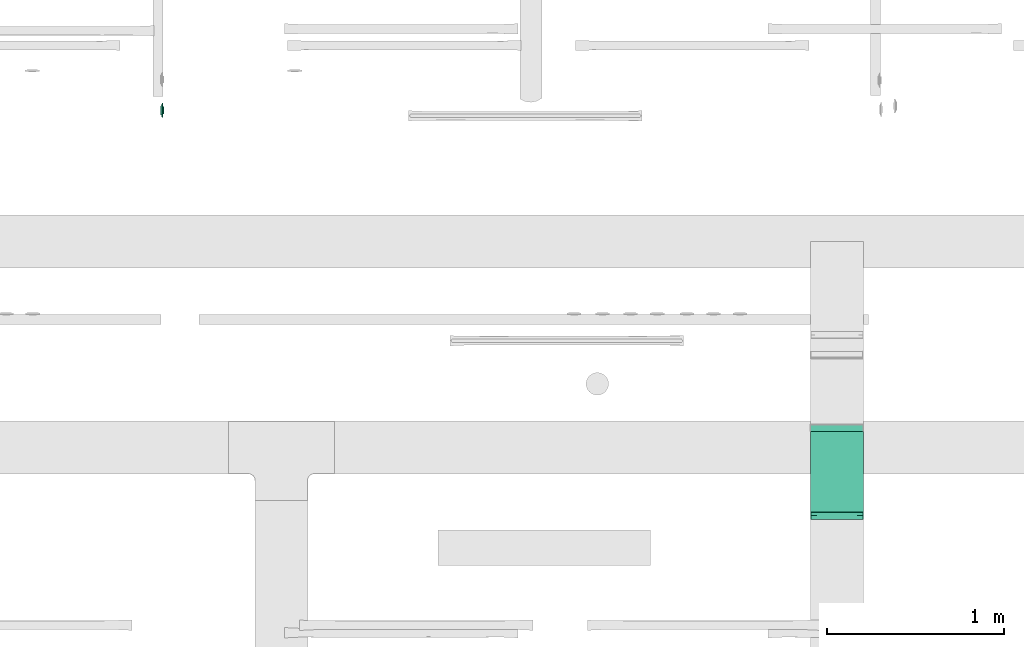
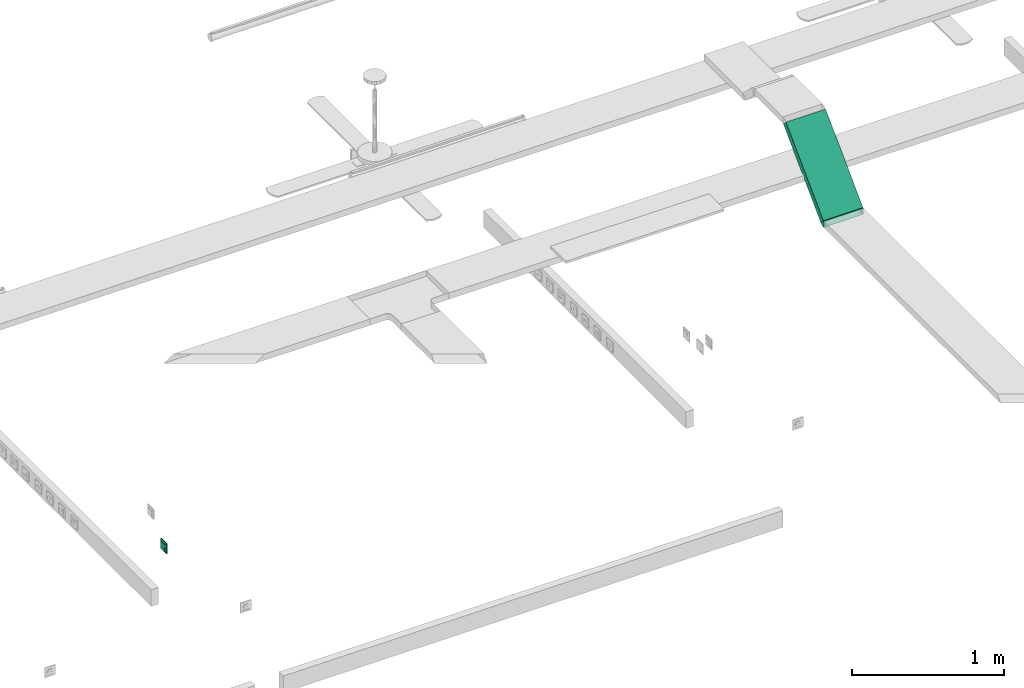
# One storey, part 93 of 153: 1 flow fitting, 1 flow segment, 1 flow terminal.
"""IFC2X3 building model written with IfcOpenShell, lengths in metres."""

from ifc_helpers import new_model, entity, si_unit, converted_unit, derived_unit, direction, frame, frame_2d, origin, place, context, subcontext, project, spatial, rectangle, extrude, faceted_brep, source, transform, mapped, type_object, type_shapes, element, save


model = new_model("IFC2X3")

# Units and contexts
model_context = context("Model", 3, precision=1e-05, world=origin(), true_north=direction((6.12303176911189e-17, 1.0)))
body_context = subcontext(model_context, "Body", "Model", "MODEL_VIEW")
ifc_project = project(units=[si_unit("LENGTHUNIT", "METRE"), si_unit("AREAUNIT", "SQUARE_METRE"), si_unit("VOLUMEUNIT", "CUBIC_METRE"), converted_unit("PLANEANGLEUNIT", "DEGREE", entity("IfcRatioMeasure", 0.0174532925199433), si_unit("PLANEANGLEUNIT", "RADIAN"), dimensions=[0, 0, 0, 0, 0, 0, 0]), si_unit("MASSUNIT", "GRAM", prefix="KILO"), derived_unit("MASSDENSITYUNIT", [(si_unit("MASSUNIT", "GRAM", prefix="KILO"), 1), (si_unit("LENGTHUNIT", "METRE"), -3)]), si_unit("TIMEUNIT", "SECOND"), si_unit("FREQUENCYUNIT", "HERTZ"), si_unit("THERMODYNAMICTEMPERATUREUNIT", "DEGREE_CELSIUS"), derived_unit("THERMALTRANSMITTANCEUNIT", [(si_unit("MASSUNIT", "GRAM", prefix="KILO"), 1), (si_unit("THERMODYNAMICTEMPERATUREUNIT", "KELVIN"), -1), (si_unit("TIMEUNIT", "SECOND"), -3)]), derived_unit("VOLUMETRICFLOWRATEUNIT", [(si_unit("LENGTHUNIT", "METRE"), 3), (si_unit("TIMEUNIT", "SECOND"), -1)]), si_unit("ELECTRICCURRENTUNIT", "AMPERE"), si_unit("ELECTRICVOLTAGEUNIT", "VOLT"), si_unit("POWERUNIT", "WATT"), si_unit("FORCEUNIT", "NEWTON"), si_unit("ILLUMINANCEUNIT", "LUX"), si_unit("LUMINOUSFLUXUNIT", "LUMEN"), si_unit("LUMINOUSINTENSITYUNIT", "CANDELA"), derived_unit("USERDEFINED", [(si_unit("MASSUNIT", "GRAM", prefix="KILO"), -1), (si_unit("LENGTHUNIT", "METRE"), -2), (si_unit("TIMEUNIT", "SECOND"), 3), (si_unit("LUMINOUSFLUXUNIT", "LUMEN"), 1)]), derived_unit("LINEARVELOCITYUNIT", [(si_unit("LENGTHUNIT", "METRE"), 1), (si_unit("TIMEUNIT", "SECOND"), -1)]), si_unit("PRESSUREUNIT", "PASCAL"), derived_unit("USERDEFINED", [(si_unit("LENGTHUNIT", "METRE"), -2), (si_unit("MASSUNIT", "GRAM", prefix="KILO"), 1), (si_unit("TIMEUNIT", "SECOND"), -2)])], contexts=[model_context])

# Site, building, storey
site_placement = place(None, origin())
site = spatial("IfcSite", under=ifc_project, at=site_placement, Name="Default", CompositionType="ELEMENT")
building_placement = place(site_placement, origin())
building = spatial("IfcBuilding", under=site, at=building_placement, CompositionType="ELEMENT")
storey_placement = place(building_placement, frame((0.0, 0.0, -4.62)))
storey = spatial("IfcBuildingStorey", under=building, at=storey_placement, Name="S02", CompositionType="ELEMENT", Elevation=-4.62)

# Flow segment
cable_carrier_segment_type = type_object("IfcCableCarrierSegmentType", Name="Cable Tray with Fittings:Chemins de câbles en treillis_Chemins de câbles en treillis", PredefinedType="NOTDEFINED")
flow_segment_placement = place(building_placement, frame((0.0, 0.0, -4.62)))
element("IfcFlowSegment", 1, at=flow_segment_placement, inside=storey, type_object=cable_carrier_segment_type, Name="Cable Tray with Fittings:Chemins de câbles en treillis_Chemins de câbles en treillis", ObjectType="Cable Tray with Fittings:Chemins de câbles en treillis_Chemins de câbles en treillis", context=body_context, shape_type="SweptSolid", body=[
    extrude(rectangle(XDim=0.0500000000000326, YDim=0.300000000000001, at=frame_2d((0.0, 0.0), x_axis=(0.0, 1.0))), frame((57.2004483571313, -190.248962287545, 3.5845171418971), z_axis=(0.0, 0.707106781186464, 0.707106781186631), x_axis=(-1.0, 0.0, 0.0)), (0.0, 0.0, 1.0), 0.695139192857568),
])

# Flow terminal
light_fixture_type = type_object("IfcLightFixtureType", Name="VV IP21", PredefinedType="NOTDEFINED")
shared_shape_1 = source(origin(), body_context, "Body", "Brep", [
    faceted_brep([(0.0, 0.0209999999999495, -0.00460000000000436), (0.00543519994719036, 0.02028444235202, -0.00460000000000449), (0.0105000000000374, 0.0181865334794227, -0.00460000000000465), (0.0148492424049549, 0.014849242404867, -0.00460000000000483), (0.0181865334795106, 0.0104999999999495, -0.00460000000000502), (0.0202844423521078, 0.00543519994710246, -0.00460000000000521), (0.0210000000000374, 0.0, -0.00460000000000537), (0.0202844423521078, -0.00543519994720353, -0.00460000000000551), (0.0181865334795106, -0.0105000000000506, -0.0046000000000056), (0.0148492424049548, -0.0148492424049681, -0.00460000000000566), (0.0105000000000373, -0.0181865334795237, -0.00460000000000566), (0.00543519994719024, -0.0202844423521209, -0.00460000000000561), (0.0, -0.0210000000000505, -0.00460000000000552), (-0.00543519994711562, -0.0202844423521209, -0.00460000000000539), (-0.0104999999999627, -0.0181865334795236, -0.00460000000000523), (-0.0148492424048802, -0.0148492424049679, -0.00460000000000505), (-0.0181865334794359, -0.0105000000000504, -0.00460000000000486), (-0.0202844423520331, -0.00543519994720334, -0.00460000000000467), (-0.0209999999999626, 0.0, -0.00460000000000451), (-0.020284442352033, 0.00543519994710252, -0.00460000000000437), (-0.0181865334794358, 0.0104999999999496, -0.00460000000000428), (-0.0148492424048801, 0.0148492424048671, -0.00460000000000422), (-0.0104999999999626, 0.0181865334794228, -0.00460000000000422), (-0.00543519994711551, 0.02028444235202, -0.00460000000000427), (-0.020284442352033, -0.00543519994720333, 0.0), (-0.0209999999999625, 0.0, 0.0), (-0.0181865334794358, -0.0105000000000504, 0.0), (-0.0104999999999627, -0.0181865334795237, 0.0), (-0.0148492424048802, -0.0148492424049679, 0.0), (-0.00543519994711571, -0.020284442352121, 0.0), (0.0, -0.0210000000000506, 0.0), (0.00543519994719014, -0.0202844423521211, 0.0), (0.0105000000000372, -0.018186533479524, 0.0), (0.0181865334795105, -0.0105000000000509, 0.0), (0.0148492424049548, -0.0148492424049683, 0.0), (0.0202844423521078, -0.00543519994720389, 0.0), (0.0210000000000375, 0.0, 0.0), (0.0202844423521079, 0.00543519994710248, 0.0), (0.0181865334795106, 0.0104999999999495, 0.0), (0.0105000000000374, 0.0181865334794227, 0.0), (0.0148492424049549, 0.014849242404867, 0.0), (0.00543519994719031, 0.0202844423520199, 0.0), (0.0, 0.0209999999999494, 0.0), (-0.00543519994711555, 0.0202844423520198, 0.0), (-0.0104999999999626, 0.0181865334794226, 0.0), (-0.0181865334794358, 0.0104999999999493, 0.0), (-0.0148492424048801, 0.0148492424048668, 0.0), (-0.020284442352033, 0.00543519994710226, 0.0)], [[[0, 1, 2, 3, 4, 5, 6, 7, 8, 9, 10, 11, 12, 13, 14, 15, 16, 17, 18, 19, 20, 21, 22, 23]], [[17, 24, 25, 18]], [[16, 26, 24, 17]], [[27, 28, 15, 14]], [[16, 15, 28, 26]], [[29, 27, 14, 13]], [[30, 29, 13, 12]], [[11, 31, 30, 12]], [[10, 32, 31, 11]], [[33, 34, 9, 8]], [[10, 9, 34, 32]], [[35, 33, 8, 7]], [[36, 35, 7, 6]], [[5, 37, 36, 6]], [[4, 38, 37, 5]], [[39, 40, 3, 2]], [[4, 3, 40, 38]], [[41, 39, 2, 1]], [[42, 41, 1, 0]], [[23, 43, 42, 0]], [[22, 44, 43, 23]], [[45, 46, 21, 20]], [[22, 21, 46, 44]], [[47, 45, 20, 19]], [[25, 47, 19, 18]], [[25, 24, 26, 28, 27, 29, 30, 31, 32, 34, 33, 35, 36, 37, 38, 40, 39, 41, 42, 43, 44, 46, 45, 47]]]),
    faceted_brep([(0.0270000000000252, 0.026999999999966, 0.0103999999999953), (-0.0269999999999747, 0.026999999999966, 0.0103999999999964), (-0.0269999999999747, -0.0270000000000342, 0.0103999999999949), (0.0270000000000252, -0.0270000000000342, 0.0103999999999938), (-0.0254999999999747, 0.0258096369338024, 0.0103999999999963), (0.0255000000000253, 0.0258096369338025, 0.0103999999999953), (0.0255000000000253, -0.0255000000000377, 0.0103999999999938), (-0.0254999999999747, -0.0255000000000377, 0.0103999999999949), (0.0270000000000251, 0.0269999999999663, 0.00199999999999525), (0.0270000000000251, -0.0270000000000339, 0.00199999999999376), (-0.0269999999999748, -0.0270000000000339, 0.00199999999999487), (-0.0269999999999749, 0.0269999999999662, 0.00199999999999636), (0.0255000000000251, 0.0258096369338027, 0.00199999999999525), (-0.0254999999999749, 0.0258096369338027, 0.0019999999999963), (-0.0254999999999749, -0.0255000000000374, 0.00199999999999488), (0.0255000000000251, -0.0255000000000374, 0.00199999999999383)], [[[0, 1, 2, 3], [4, 5, 6, 7]], [[8, 9, 10, 11], [12, 13, 14, 15]], [[1, 0, 8, 11]], [[2, 1, 11, 10]], [[3, 2, 10, 9]], [[0, 3, 9, 8]], [[12, 5, 4, 13]], [[13, 4, 7, 14]], [[14, 7, 6, 15]], [[5, 12, 15, 6]]]),
    faceted_brep([(0.0250000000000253, 0.0253096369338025, 0.00659999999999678), (0.0250000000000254, 0.0253096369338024, 0.0117095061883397), (0.0250000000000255, -0.0245000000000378, 0.0142232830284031), (0.0250000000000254, -0.0250000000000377, 0.0117095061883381), (0.0250000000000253, -0.0250000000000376, 0.00659999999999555), (-0.0249999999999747, 0.0253096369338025, 0.00659999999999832), (-0.0249999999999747, -0.0250000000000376, 0.00659999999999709), (-0.0249999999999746, -0.0250000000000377, 0.0117095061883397), (-0.0249999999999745, -0.0245000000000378, 0.0142232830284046), (-0.0249999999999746, 0.0253096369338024, 0.0117095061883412)], [[[0, 1, 2, 3, 4]], [[5, 6, 7, 8, 9]], [[1, 0, 5, 9]], [[2, 1, 9, 8]], [[3, 2, 8, 7]], [[4, 3, 7, 6]], [[0, 4, 6, 5]]]),
    faceted_brep([(0.027000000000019, 0.0269999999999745, 0.00659999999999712), (-0.0269999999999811, 0.0269999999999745, 0.00659999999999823), (-0.026999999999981, -0.0270000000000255, 0.00659999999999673), (0.027000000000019, -0.0270000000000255, 0.00659999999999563), (0.040350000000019, 0.0403499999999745, 0.00659999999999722), (0.040350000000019, -0.0403500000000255, 0.00659999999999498), (-0.0403499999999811, -0.0403500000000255, 0.00659999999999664), (-0.0403499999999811, 0.0403499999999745, 0.00659999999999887), (-0.026999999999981, 0.0269999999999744, 0.0103999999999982), (0.027000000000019, 0.0269999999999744, 0.0103999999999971), (-0.026999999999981, -0.0270000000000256, 0.0103999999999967), (0.027000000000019, -0.0270000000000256, 0.0103999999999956)], [[[0, 1, 2, 3], [4, 5, 6, 7]], [[4, 7, 8, 9]], [[7, 6, 10, 8]], [[6, 5, 11, 10]], [[5, 4, 9, 11]], [[0, 9, 8, 1]], [[1, 8, 10, 2]], [[2, 10, 11, 3]], [[9, 0, 3, 11]]], outer=[[False, True], [True], [True], [True], [True], [True], [True], [True], [True]]),
    faceted_brep([(0.040350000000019, 0.0403499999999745, 0.00659999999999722), (-0.0403499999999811, 0.0403499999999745, 0.00659999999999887), (-0.0403499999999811, -0.0403500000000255, 0.00659999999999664), (0.040350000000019, -0.0403500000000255, 0.00659999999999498), (-0.0269999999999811, 0.0269999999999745, 0.00659999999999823), (0.0270000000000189, 0.0269999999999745, 0.00659999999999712), (0.0270000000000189, -0.0270000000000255, 0.00659999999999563), (-0.0269999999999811, -0.0270000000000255, 0.00659999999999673), (0.0403500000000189, 0.0403499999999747, 0.0), (0.0403500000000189, -0.0403500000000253, 0.0), (-0.0403499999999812, -0.0403500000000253, 0.0), (-0.0403499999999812, 0.0403499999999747, 0.0), (0.0270000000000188, 0.0269999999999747, 0.0), (-0.0269999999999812, 0.0269999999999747, 0.0), (-0.0269999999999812, -0.0270000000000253, 0.0), (0.0270000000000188, -0.0270000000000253, 0.0)], [[[0, 1, 2, 3], [4, 5, 6, 7]], [[8, 9, 10, 11], [12, 13, 14, 15]], [[1, 0, 8, 11]], [[2, 1, 11, 10]], [[3, 2, 10, 9]], [[0, 3, 9, 8]], [[12, 5, 4, 13]], [[13, 4, 7, 14]], [[14, 7, 6, 15]], [[5, 12, 15, 6]]]),
])
type_shapes(light_fixture_type, [shared_shape_1])
flow_terminal_placement = place(building_placement, frame((53.3897436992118, -187.959254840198, -3.73999999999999), z_axis=(-1.0, 0.0, 0.0), x_axis=(0.0, -1.0, 0.0)))
element("IfcFlowTerminal", 2, at=flow_terminal_placement, inside=storey, type_object=light_fixture_type, Name="INT_Inter VV:VV IP21", ObjectType="INT_Inter VV:VV IP21", context=body_context, shape_type="MappedRepresentation", body=[
    mapped(shared_shape_1, transform((0.0, 0.0, 0.0), scale=1.0)),
])

# Flow fitting
cable_carrier_fitting_type = type_object("IfcCableCarrierFittingType", Name="E_Bend_Vertical_Inside_CA_Generic_MEPcontent", PredefinedType="NOTDEFINED")
shared_shape_2 = source(origin(), body_context, "Body", "Brep", [
    faceted_brep([(-0.00886744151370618, 0.0264878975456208, 0.14746000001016), (-0.00886744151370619, 0.0264878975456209, 0.15), (0.0264878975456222, -0.00886744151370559, 0.15), (0.0264878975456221, -0.0088674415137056, 0.0), (0.0264878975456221, -0.00886744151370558, -0.15), (-0.00886744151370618, 0.0264878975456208, -0.15), (-0.00886744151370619, 0.0264878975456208, -0.14746000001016), (0.0246918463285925, -0.00707139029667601, -0.14746000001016), (0.0246918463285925, -0.00707139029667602, 0.0), (0.0246918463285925, -0.007071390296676, 0.14746000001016), (-0.0124595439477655, 0.025, -0.14746000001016), (-0.0124595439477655, 0.025, -0.15), (-0.0124595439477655, -0.025, -0.15), (-0.0124595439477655, -0.025, 0.0), (-0.0124595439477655, -0.025, 0.15), (-0.0124595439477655, 0.025, 0.15), (-0.0124595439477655, 0.025, 0.14746000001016), (-0.0124595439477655, -0.02246000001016, 0.14746000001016), (-0.0124595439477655, -0.02246000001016, 0.0), (-0.0124595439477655, -0.02246000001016, -0.14746000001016), (-0.00192044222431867, -0.0229036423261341, 0.15), (0.00861865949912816, -0.0208072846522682, 0.15), (0.0175532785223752, -0.0148373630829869, 0.15), (-0.0105155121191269, 0.0253866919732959, 0.15), (-0.0105155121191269, 0.0253866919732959, 0.14746000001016), (0.0161692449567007, -0.0127660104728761, 0.14746000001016), (0.00764664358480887, -0.0184606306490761, 0.14746000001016), (-0.00240645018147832, -0.0204603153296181, 0.14746000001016), (-0.00240645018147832, -0.0204603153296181, -0.14746000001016), (0.00764664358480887, -0.0184606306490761, -0.14746000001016), (0.0161692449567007, -0.0127660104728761, -0.14746000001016), (-0.0105155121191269, 0.0253866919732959, -0.14746000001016), (-0.0105155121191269, 0.0253866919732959, -0.15), (0.0175532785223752, -0.0148373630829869, -0.15), (0.00861865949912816, -0.0208072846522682, -0.15), (-0.00192044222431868, -0.0229036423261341, -0.15), (0.00352933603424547, -0.0226282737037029, 0.0), (0.0151733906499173, -0.0175669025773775, 0.0), (0.00279201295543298, -0.0201976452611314, 0.0), (0.0144110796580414, -0.0150688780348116, 0.0)], [[[0, 1, 2, 3, 4, 5, 6, 7, 8, 9]], [[10, 11, 12, 13, 14, 15, 16, 17, 18, 19]], [[15, 14, 20, 21, 22, 2, 1, 23]], [[24, 0, 9, 25, 26, 27, 17, 16]], [[10, 19, 28, 29, 30, 7, 6, 31]], [[32, 5, 4, 33, 34, 35, 12, 11]], [[35, 36, 13]], [[33, 3, 37]], [[34, 36, 35]], [[34, 37, 36]], [[37, 3, 22]], [[3, 33, 4]], [[2, 22, 3]], [[21, 20, 36]], [[37, 21, 36]], [[37, 34, 33]], [[20, 13, 36]], [[13, 20, 14]], [[12, 35, 13]], [[22, 21, 37]], [[31, 32, 11, 10]], [[15, 23, 24, 16]], [[6, 5, 32, 31]], [[1, 0, 24, 23]], [[18, 38, 28]], [[39, 8, 30]], [[28, 38, 29]], [[38, 39, 29]], [[25, 8, 39]], [[7, 30, 8]], [[8, 25, 9]], [[38, 27, 26]], [[38, 26, 39]], [[30, 29, 39]], [[38, 18, 27]], [[17, 27, 18]], [[18, 28, 19]], [[39, 26, 25]]]),
    faceted_brep([(-0.00886744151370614, 0.0264878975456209, 0.15), (-0.00886744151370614, 0.0264878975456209, 0.14746000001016), (0.0246918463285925, -0.00707139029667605, 0.14746000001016), (0.0246918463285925, -0.00707139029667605, -0.14746000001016), (-0.00886744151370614, 0.0264878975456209, -0.14746000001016), (-0.00886744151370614, 0.0264878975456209, -0.15), (0.0264878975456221, -0.00886744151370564, -0.15), (0.0264878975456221, -0.00886744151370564, 0.15), (-0.00816033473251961, 0.0271950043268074, 0.15), (0.0271950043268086, -0.00816033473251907, 0.15), (0.0271950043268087, -0.00816033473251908, -0.15), (-0.00816033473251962, 0.0271950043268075, -0.15), (-0.00816033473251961, 0.0271950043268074, -0.14746000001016), (0.025398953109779, -0.00636428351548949, -0.14746000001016), (0.025398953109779, -0.00636428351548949, 0.14746000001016), (-0.00816033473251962, 0.0271950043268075, 0.14746000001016)], [[[0, 1, 2, 3, 4, 5, 6, 7]], [[8, 9, 10, 11, 12, 13, 14, 15]], [[6, 5, 11, 10]], [[4, 3, 13, 12]], [[2, 1, 15, 14]], [[0, 7, 9, 8]], [[1, 0, 8, 15]], [[3, 2, 14, 13]], [[5, 4, 12, 11]], [[7, 6, 10, 9]]]),
    faceted_brep([(-0.0124595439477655, 0.025, 0.15), (-0.0124595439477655, -0.025, 0.15), (-0.0124595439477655, -0.025, -0.15), (-0.0124595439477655, 0.025, -0.15), (-0.0124595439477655, 0.025, -0.14746000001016), (-0.0124595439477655, -0.02246000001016, -0.14746000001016), (-0.0124595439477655, -0.02246000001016, 0.14746000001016), (-0.0124595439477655, 0.025, 0.14746000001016), (-0.0134595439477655, 0.025, 0.15), (-0.0134595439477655, 0.025, 0.14746000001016), (-0.0134595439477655, -0.02246000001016, 0.14746000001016), (-0.0134595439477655, -0.02246000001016, -0.14746000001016), (-0.0134595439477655, 0.025, -0.14746000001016), (-0.0134595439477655, 0.025, -0.15), (-0.0134595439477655, -0.025, -0.15), (-0.0134595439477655, -0.025, 0.15)], [[[0, 1, 2, 3, 4, 5, 6, 7]], [[8, 9, 10, 11, 12, 13, 14, 15]], [[1, 0, 8, 15]], [[7, 6, 10, 9]], [[5, 4, 12, 11]], [[3, 2, 14, 13]], [[2, 1, 15, 14]], [[4, 3, 13, 12]], [[6, 5, 11, 10]], [[0, 7, 9, 8]]]),
])
type_shapes(cable_carrier_fitting_type, [shared_shape_2])
flow_fitting_placement = place(building_placement, frame((57.2004483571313, -190.258479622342, -1.04500019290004), z_axis=(1.0, 0.0, 0.0), x_axis=(0.0, 1.0, 0.0)))
element("IfcFlowFitting", 3, at=flow_fitting_placement, inside=storey, type_object=cable_carrier_fitting_type, Name="E_Bend_Vertical_Inside_CA_Generic_MEPcontent:E_Bend_Vertical_Inside_CA_Generic_MEPcontent", ObjectType="E_Bend_Vertical_Inside_CA_Generic_MEPcontent:E_Bend_Vertical_Inside_CA_Generic_MEPcontent", context=body_context, shape_type="MappedRepresentation", body=[
    mapped(shared_shape_2, transform((0.0, 0.0, 0.0), scale=1.0)),
])

save(model, "model.ifc")
